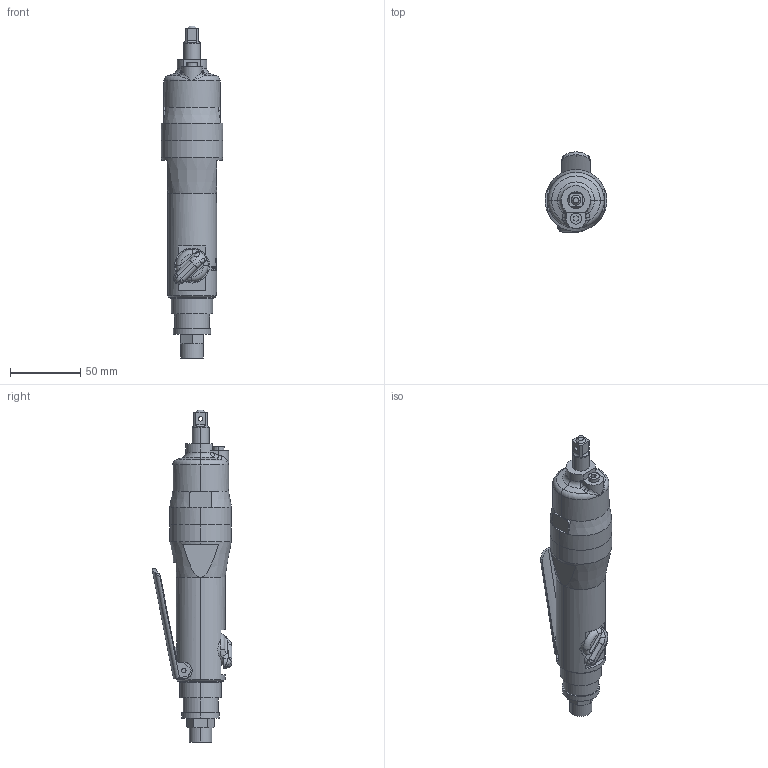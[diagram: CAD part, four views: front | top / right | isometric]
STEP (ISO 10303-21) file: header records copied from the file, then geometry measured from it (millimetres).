
FILE_DESCRIPTION (( 'STEP AP203' ), '1' );
FILE_NAME ('UX-450S.STEP', '2006-12-04T00:10:42', ( ' ' ), ( ' ' ), 'SwSTEP 2.0', 'SolidWorks 2003240', '' );
FILE_SCHEMA (( 'CONFIG_CONTROL_DESIGN' ));
Products named in the file (7): 1974546_UX-450S_蹬怮椔; UX-450S; 1774395_UX-450S_蹬怮椔; 1770253_UX-450S_蹬怮椔; 1802122_UX-450S_蹬怮椔; PIN_UX-450S_蹬怮椔; 1961077_UX-450S_蹬怮椔
Assembly tree (6 placements, depth 2):
  UX-450S
    1802122_UX-450S_蹬怮椔
    1774395_UX-450S_蹬怮椔
    1974546_UX-450S_蹬怮椔
    1961077_UX-450S_蹬怮椔
    1770253_UX-450S_蹬怮椔
    PIN_UX-450S_蹬怮椔
Bounding box: 44 x 57.07 x 237 mm (x, y, z)
Volume: 211255 mm3; surface area: 38802.6 mm2
Topology: 6 solids, 6 shells, 435 faces, 1125 edges, 721 vertices
Faces by surface type: plane 170, cylinder 144, bspline 80, cone 25, torus 14, sphere 2
Entity records: 31376 total; most frequent: CARTESIAN_POINT 20857, ORIENTED_EDGE 2234, DIRECTION 1758, EDGE_CURVE 1117, VERTEX_POINT 721, AXIS2_PLACEMENT_3D 659, EDGE_LOOP 468, VECTOR 440
